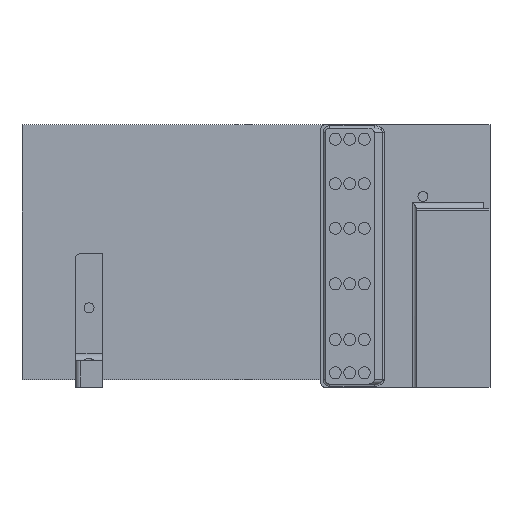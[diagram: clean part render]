
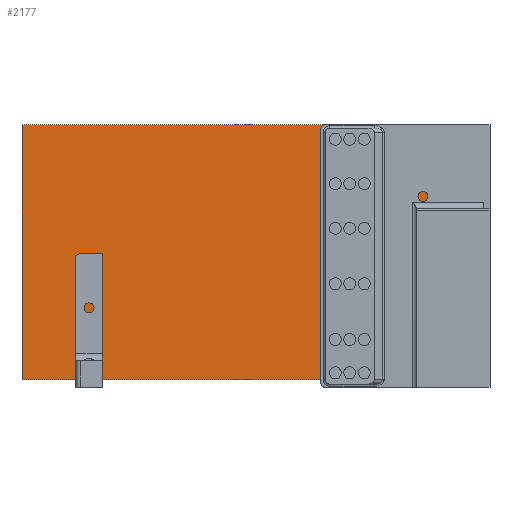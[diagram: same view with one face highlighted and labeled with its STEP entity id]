
A CAD part, left-side view. The second image highlights one B-rep face of the part: STEP entity #2177.
In plain terms, the highlighted planar face has unit normal (-1, 0, 0).
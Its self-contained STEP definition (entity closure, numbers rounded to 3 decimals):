
#116=PLANE('',#2413);
#236=FACE_OUTER_BOUND('',#391,.T.);
#391=EDGE_LOOP('',(#1894,#1895,#1896,#1897));
#568=LINE('',#3693,#758);
#569=LINE('',#3695,#759);
#570=LINE('',#3697,#760);
#571=LINE('',#3698,#761);
#758=VECTOR('',#2995,10.);
#759=VECTOR('',#2996,10.);
#760=VECTOR('',#2997,10.);
#761=VECTOR('',#2998,10.);
#1066=VERTEX_POINT('',#3691);
#1067=VERTEX_POINT('',#3692);
#1068=VERTEX_POINT('',#3694);
#1069=VERTEX_POINT('',#3696);
#1349=EDGE_CURVE('',#1066,#1067,#568,.T.);
#1350=EDGE_CURVE('',#1066,#1068,#569,.T.);
#1351=EDGE_CURVE('',#1069,#1068,#570,.T.);
#1352=EDGE_CURVE('',#1067,#1069,#571,.T.);
#1894=ORIENTED_EDGE('',*,*,#1349,.F.);
#1895=ORIENTED_EDGE('',*,*,#1350,.T.);
#1896=ORIENTED_EDGE('',*,*,#1351,.F.);
#1897=ORIENTED_EDGE('',*,*,#1352,.F.);
#2177=ADVANCED_FACE('',(#236),#116,.T.);
#2413=AXIS2_PLACEMENT_3D('',#3690,#2993,#2994);
#2993=DIRECTION('center_axis',(-1.,0.,0.));
#2994=DIRECTION('ref_axis',(0.,0.,1.));
#2995=DIRECTION('',(0.,0.,-1.));
#2996=DIRECTION('',(0.,1.,0.));
#2997=DIRECTION('',(0.,0.,1.));
#2998=DIRECTION('',(0.,1.,0.));
#3690=CARTESIAN_POINT('Origin',(0.,0.,0.));
#3691=CARTESIAN_POINT('',(0.,0.,114.5));
#3692=CARTESIAN_POINT('',(0.,0.,0.));
#3693=CARTESIAN_POINT('',(0.,0.,114.5));
#3694=CARTESIAN_POINT('',(0.,210.25,114.5));
#3695=CARTESIAN_POINT('',(0.,0.,114.5));
#3696=CARTESIAN_POINT('',(0.,210.25,0.));
#3697=CARTESIAN_POINT('',(0.,210.25,114.5));
#3698=CARTESIAN_POINT('',(0.,0.,0.));
